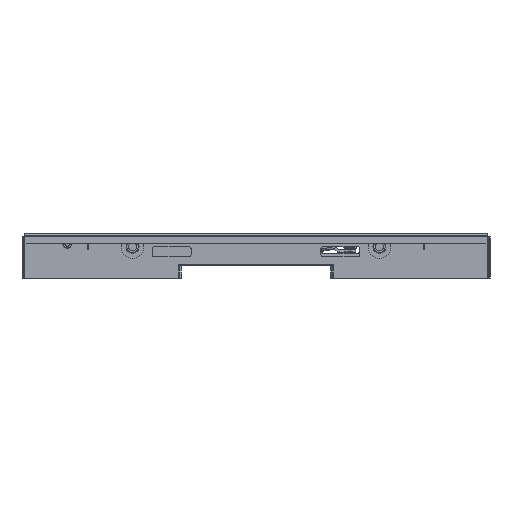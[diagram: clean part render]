
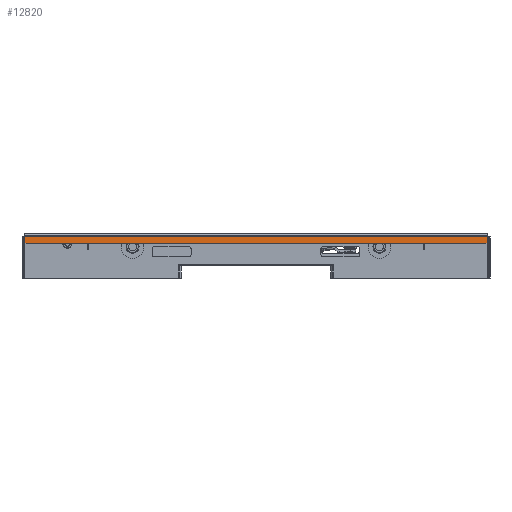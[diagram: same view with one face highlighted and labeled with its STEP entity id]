
A CAD part, front view. The second image highlights one B-rep face of the part: STEP entity #12820.
In plain terms, the highlighted planar face has unit normal (0, -1, 0).
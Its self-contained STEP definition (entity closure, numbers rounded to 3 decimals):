
#12820 = ADVANCED_FACE ( 'NONE', ( #128778 ), #118438, .F. ) ;
#22292 = EDGE_LOOP ( 'NONE', ( #24548, #24550, #24546, #24554, #24556, #24558 ) ) ;
#24546 = ORIENTED_EDGE ( 'NONE', *, *, #112939, .T. ) ;
#24548 = ORIENTED_EDGE ( 'NONE', *, *, #112924, .F. ) ;
#24550 = ORIENTED_EDGE ( 'NONE', *, *, #112941, .T. ) ;
#24554 = ORIENTED_EDGE ( 'NONE', *, *, #112942, .T. ) ;
#24556 = ORIENTED_EDGE ( 'NONE', *, *, #112912, .T. ) ;
#24558 = ORIENTED_EDGE ( 'NONE', *, *, #112943, .F. ) ;
#51860 = LINE ( 'NONE', #51862, #78476 ) ;
#51862 = CARTESIAN_POINT ( 'NONE',  ( 356.75, -869.5, -34.251 ) ) ;
#51864 = DIRECTION ( 'NONE',  ( 0., 0., 1. ) ) ;
#51932 = LINE ( 'NONE', #51934, #78490 ) ;
#51934 = CARTESIAN_POINT ( 'NONE',  ( -356.75, -869.5, -34.251 ) ) ;
#51936 = DIRECTION ( 'NONE',  ( 0., 0., 1. ) ) ;
#52022 = LINE ( 'NONE', #52024, #78504 ) ;
#52024 = CARTESIAN_POINT ( 'NONE',  ( -360.25, -869.5, 19.25 ) ) ;
#52026 = DIRECTION ( 'NONE',  ( 1., 0., 0. ) ) ;
#52034 = LINE ( 'NONE', #52036, #78506 ) ;
#52036 = CARTESIAN_POINT ( 'NONE',  ( -353.75, -869.5, 19.25 ) ) ;
#52038 = DIRECTION ( 'NONE',  ( 0.707, 0., -0.707 ) ) ;
#52040 = LINE ( 'NONE', #52042, #78507 ) ;
#52042 = CARTESIAN_POINT ( 'NONE',  ( 353.75, -869.5, 19.25 ) ) ;
#52044 = DIRECTION ( 'NONE',  ( 0.707, 0., 0.707 ) ) ;
#52046 = LINE ( 'NONE', #52048, #78509 ) ;
#52048 = CARTESIAN_POINT ( 'NONE',  ( -360.25, -869.5, 30.75 ) ) ;
#52050 = DIRECTION ( 'NONE',  ( 1., 0., 0. ) ) ;
#58209 = VERTEX_POINT ( 'NONE', #134765 ) ;
#58210 = VERTEX_POINT ( 'NONE', #134766 ) ;
#58216 = VERTEX_POINT ( 'NONE', #134772 ) ;
#58217 = VERTEX_POINT ( 'NONE', #134773 ) ;
#58225 = VERTEX_POINT ( 'NONE', #134781 ) ;
#58226 = VERTEX_POINT ( 'NONE', #134782 ) ;
#78476 = VECTOR ( 'NONE', #51864, 1000. ) ;
#78490 = VECTOR ( 'NONE', #51936, 1000. ) ;
#78504 = VECTOR ( 'NONE', #52026, 1000. ) ;
#78506 = VECTOR ( 'NONE', #52038, 1000. ) ;
#78507 = VECTOR ( 'NONE', #52044, 1000. ) ;
#78509 = VECTOR ( 'NONE', #52050, 1000. ) ;
#112912 = EDGE_CURVE ( 'NONE', #58226, #58225, #51860, .T. ) ;
#112924 = EDGE_CURVE ( 'NONE', #58217, #58216, #51932, .T. ) ;
#112939 = EDGE_CURVE ( 'NONE', #58210, #58209, #52022, .T. ) ;
#112941 = EDGE_CURVE ( 'NONE', #58217, #58210, #52034, .T. ) ;
#112942 = EDGE_CURVE ( 'NONE', #58209, #58226, #52040, .T. ) ;
#112943 = EDGE_CURVE ( 'NONE', #58216, #58225, #52046, .T. ) ;
#118438 = PLANE ( 'NONE',  #128782 ) ;
#118439 = CARTESIAN_POINT ( 'NONE',  ( -360.25, -869.5, 34.25 ) ) ;
#118440 = DIRECTION ( 'NONE',  ( 0., 1., 0. ) ) ;
#118441 = DIRECTION ( 'NONE',  ( 0., 0., -1. ) ) ;
#128778 = FACE_OUTER_BOUND ( 'NONE', #22292, .T. ) ;
#128782 = AXIS2_PLACEMENT_3D ( 'NONE', #118439, #118440, #118441 ) ;
#134765 = CARTESIAN_POINT ( 'NONE',  ( 353.75, -869.5, 19.25 ) ) ;
#134766 = CARTESIAN_POINT ( 'NONE',  ( -353.75, -869.5, 19.25 ) ) ;
#134772 = CARTESIAN_POINT ( 'NONE',  ( -356.75, -869.5, 30.75 ) ) ;
#134773 = CARTESIAN_POINT ( 'NONE',  ( -356.75, -869.5, 22.25 ) ) ;
#134781 = CARTESIAN_POINT ( 'NONE',  ( 356.75, -869.5, 30.75 ) ) ;
#134782 = CARTESIAN_POINT ( 'NONE',  ( 356.75, -869.5, 22.25 ) ) ;
